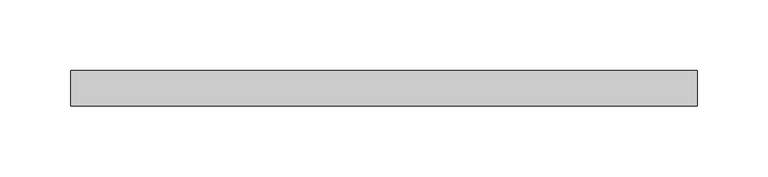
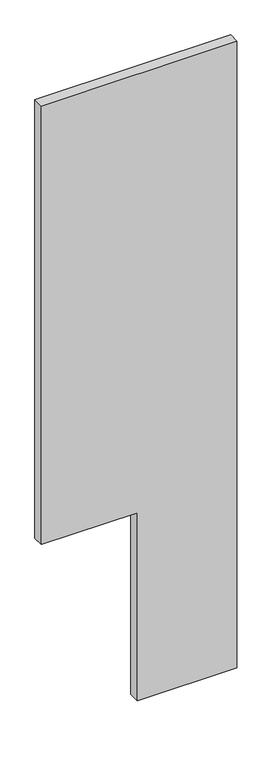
"""IFC4 building model written with IfcOpenShell, lengths in millimetres: plate geometry, Системная панель : С остеклением."""

from ifc_helpers import new_model, si_unit, frame, origin, place, context, project, spatial, polyline, outline, extrude, source, transform, mapped, element, save


def plate_dd2d5071(model_context):
    return source(origin(), model_context, "Body", "SweptSolid", [
        extrude(outline(polyline([(0.0, -3.975), (0.0, 221.275), (1500.0, 221.275), (1500.0, -221.275), (450.0, -221.275), (450.0, -3.975), (0.0, -3.975)])), frame((0.0, 24.5, 0.0), z_axis=(0.0, 1.0, 0.0), x_axis=(0.0, 0.0, 1.0)), (0.0, 0.0, 1.0), 25.0),
    ])


if __name__ == "__main__":
    model = new_model("IFC4")
    model_context = context("Model", 3, world=origin())
    ifc_project = project(units=[si_unit("LENGTHUNIT", "METRE", prefix="MILLI")], contexts=[model_context])
    site = spatial("IfcSite", under=ifc_project)
    building = spatial("IfcBuilding", under=site)
    placement = place(None, origin())
    plate_shape = plate_dd2d5071(model_context)
    element("IfcPlate", 1, ObjectType="Системная панель : С остеклением", at=placement, inside=building, context=model_context, shape_type="MappedRepresentation", body=[
        mapped(plate_shape, transform((0.0, 0.0, 0.0), x_axis=(1.0, 0.0, 0.0), y_axis=(0.0, 1.0, 0.0), z_axis=(0.0, 0.0, 1.0))),
    ])
    save(model, "model.ifc")
